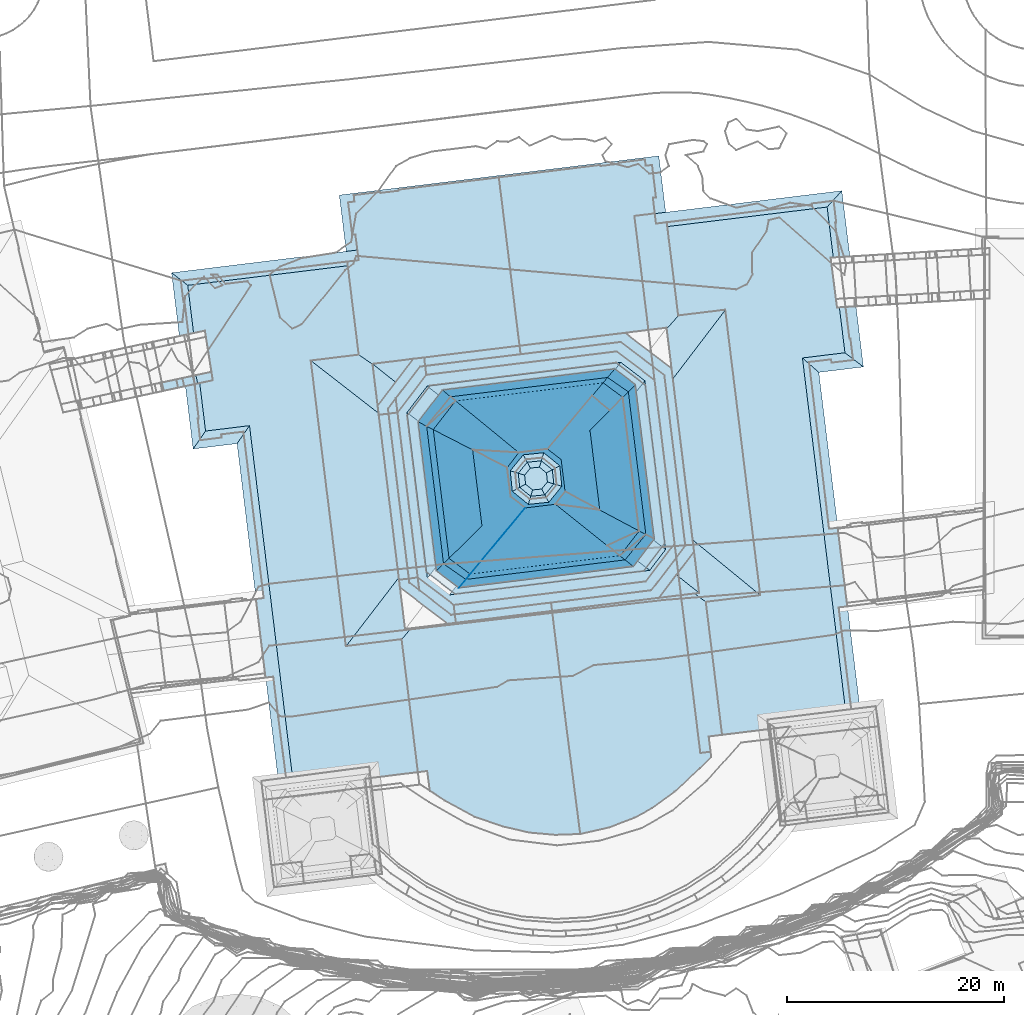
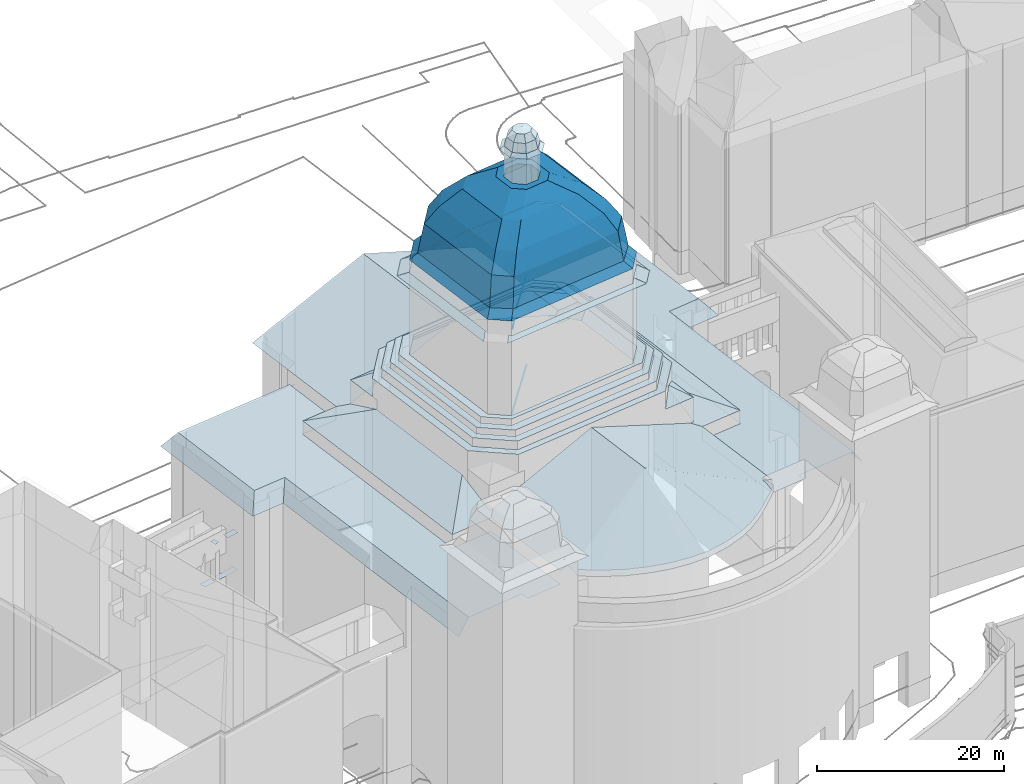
# Not in any storey, part 78 of 494: 23 roofs.
"""IFC2X3 model written with IfcOpenShell, lengths in metres."""

from ifc_helpers import new_model, si_unit, frame, origin_with_axes, place, context, subcontext, project, faceted_brep, element, save


model = new_model("IFC2X3")

# Units and contexts
model_context = context("Model", 3, precision=1e-05, world=origin_with_axes())
body_context = subcontext(model_context, "Body", "Model", "MODEL_VIEW")
ifc_project = project(units=[si_unit("AREAUNIT", "SQUARE_METRE"), si_unit("LENGTHUNIT", "METRE")], contexts=[model_context])

# Roofs
roof_1_placement = place(None, frame((211.8297320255, 101.9383160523, 526.7541), z_axis=(0.0, 0.0, 1.0), x_axis=(1.0, 0.0, 0.0)))
element("IfcRoof", 1, at=roof_1_placement, Name="Roof 4", ShapeType="NOTDEFINED", context=body_context, shape_type="Brep", body=[
    faceted_brep([(290.6510000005, 294.4814000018, 24.302), (290.5280000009, 295.2606999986, 24.302), (287.8580000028, 294.6854999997, 24.302), (288.0230000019, 293.9149999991, 24.302)], [[[0, 1, 2]], [[2, 3, 0]]]),
])
roof_2_placement = place(None, frame((211.8297320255, 101.9383160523, 526.7541), z_axis=(0.0, 0.0, 1.0), x_axis=(1.0, 0.0, 0.0)))
element("IfcRoof", 2, at=roof_2_placement, Name="Roof 8", ShapeType="NOTDEFINED", context=body_context, shape_type="Brep", body=[
    faceted_brep([(287.4560000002, 293.7930000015, 24.302), (287.2910000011, 294.5634999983, 24.302), (285.8230000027, 294.246100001, 24.302), (285.9890000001, 293.4765000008, 24.302)], [[[0, 1, 2]], [[2, 3, 0]]]),
])
roof_3_placement = place(None, frame((211.8297320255, 101.9383160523, 526.7541), z_axis=(0.0, 0.0, 1.0), x_axis=(1.0, 0.0, 0.0)))
element("IfcRoof", 3, at=roof_3_placement, Name="Roof 21", ShapeType="NOTDEFINED", context=body_context, shape_type="Brep", body=[
    faceted_brep([(287.4560000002, 293.7930000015, 29.1525), (288.0230000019, 293.9149999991, 29.1525), (287.2910000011, 294.5625, 29.1525), (287.8580000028, 294.6845999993, 29.1525)], [[[0, 1, 2]], [[1, 3, 2]]]),
])
roof_4_placement = place(None, frame((516.5377320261, 359.7107160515, 536.6602), z_axis=(0.0, 0.0, 1.0), x_axis=(1.0, 0.0, 0.0)))
element("IfcRoof", 4, at=roof_4_placement, Name="Roof 0", ShapeType="NOTDEFINED", context=body_context, shape_type="Brep", body=[
    faceted_brep([(28.6510000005, 18.7881000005, 34.3877), (30.7569999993, 17.1143000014, 33.0868), (30.2879999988, 20.9327000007, 33.0869), (27.0240000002, 16.6563000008, 33.0868)], [[[0, 1, 2]], [[1, 0, 3]]]),
])
roof_5_placement = place(None, frame((516.5377320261, 359.7107160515, 536.6602), z_axis=(0.0, 0.0, 1.0), x_axis=(1.0, 0.0, 0.0)))
element("IfcRoof", 5, at=roof_5_placement, Name="Roof 3", ShapeType="NOTDEFINED", context=body_context, shape_type="Brep", body=[
    faceted_brep([(25.068, 20.0694000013, 48.8753), (26.1810000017, 19.2100000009, 48.2674), (26.5370000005, 21.9942000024, 48.8753), (27.6500000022, 21.134800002, 48.2674)], [[[0, 1, 2]], [[2, 1, 3]]]),
])
roof_6_placement = place(None, frame((516.5377320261, 359.7107160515, 536.6602), z_axis=(0.0, 0.0, 1.0), x_axis=(1.0, 0.0, 0.0)))
element("IfcRoof", 6, at=roof_6_placement, Name="Roof 4", ShapeType="NOTDEFINED", context=body_context, shape_type="Brep", body=[
    faceted_brep([(5.631000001, 19.0303000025, 38.1684), (6.5350000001, 19.1534000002, 38.1684), (4.8489999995, 32.8896999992, 38.1686), (8.2750000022, 17.0118000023, 38.1684), (8.5899999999, 17.5850000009, 38.1684), (24.6799999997, 19.5595999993, 38.1684), (3.8579999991, 33.4747000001, 38.1686), (5.9479999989, 36.2138999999, 38.1686), (7.0850000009, 35.8203999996, 38.1686), (23.0800000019, 38.317400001, 38.1686), (25.626000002, 19.1416000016, 38.1684), (26.6130000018, 22.0928000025, 38.1684), (27.5800000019, 21.7032000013, 38.1684), (25.7950000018, 36.2442000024, 38.1685), (22.9670000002, 37.7686000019, 38.1686), (24.8660000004, 36.3203999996, 38.1685)], [[[0, 1, 2]], [[1, 0, 3]], [[3, 4, 1]], [[4, 3, 5]], [[6, 2, 7]], [[2, 6, 0]], [[7, 8, 9]], [[8, 7, 2]], [[5, 10, 11]], [[10, 5, 3]], [[11, 12, 13]], [[12, 11, 10]], [[14, 9, 8]], [[9, 14, 15]], [[15, 13, 9]], [[13, 15, 11]]]),
])
roof_7_placement = place(None, frame((516.5377320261, 359.7107160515, 536.6602), z_axis=(0.0, 0.0, 1.0), x_axis=(1.0, 0.0, 0.0)))
element("IfcRoof", 7, at=roof_7_placement, Name="Roof 5", ShapeType="NOTDEFINED", context=body_context, shape_type="Brep", body=[
    faceted_brep([(10.6290000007, 20.0401000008, 38.1684), (8.5430000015, 17.5284000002, 38.1684), (12.8370000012, 22.692400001, 38.1684), (14.7650000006, 25.009800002, 38.1684), (12.9739999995, 22.8604000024, 38.1684)], [[[0, 1, 2]], [[2, 3, 4]], [[2, 4, 0]]]),
])
roof_8_placement = place(None, frame((516.5377320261, 359.7107160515, 536.6602), z_axis=(0.0, 0.0, 1.0), x_axis=(1.0, 0.0, 0.0)))
element("IfcRoof", 8, at=roof_8_placement, Name="Roof 6", ShapeType="NOTDEFINED", context=body_context, shape_type="Brep", body=[
    faceted_brep([(9.0810000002, 18.1748000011, 48.8994), (9.5710000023, 18.7646999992, 49.2283), (9.5700000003, 18.7657000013, 49.2293), (10.0610000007, 19.3564999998, 49.5583)], [[[0, 1, 2]], [[1, 3, 2]]]),
])
roof_9_placement = place(None, frame((516.5377320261, 359.7107160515, 536.6602), z_axis=(0.0, 0.0, 1.0), x_axis=(1.0, 0.0, 0.0)))
element("IfcRoof", 9, at=roof_9_placement, Name="Roof 7", ShapeType="NOTDEFINED", context=body_context, shape_type="Brep", body=[
    faceted_brep([(4.8489999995, 32.8896999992, 48.8025), (4.8839999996, 32.9356000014, 48.8275), (3.824000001, 33.7540000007, 48.2376), (5.6970000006, 18.4893000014, 48.2374), (6.4930000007, 19.496100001, 48.8024)], [[[0, 1, 2]], [[2, 3, 4]], [[2, 4, 0]]]),
])
roof_10_placement = place(None, frame((516.5377320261, 359.7107160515, 536.6602), z_axis=(0.0, 0.0, 1.0), x_axis=(1.0, 0.0, 0.0)))
element("IfcRoof", 10, at=roof_10_placement, Name="Roof 8", ShapeType="NOTDEFINED", context=body_context, shape_type="Brep", body=[
    faceted_brep([(12.1140000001, 21.8282000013, 49.8883), (10.5540000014, 19.9502000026, 49.8883), (14.7219999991, 24.9590000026, 49.8883), (13.6781000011, 23.7080000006, 49.8883)], [[[0, 1, 2]], [[2, 3, 0]]]),
])
roof_11_placement = place(None, frame((516.5377320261, 359.7107160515, 536.6602), z_axis=(0.0, 0.0, 1.0), x_axis=(1.0, 0.0, 0.0)))
element("IfcRoof", 11, at=roof_11_placement, Name="Roof 9", ShapeType="NOTDEFINED", context=body_context, shape_type="Brep", body=[
    faceted_brep([(4.8839999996, 32.9356000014, 48.8465), (6.7360000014, 35.3632999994, 48.8465), (3.824000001, 33.7539000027, 48.2676), (5.675999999, 36.1807000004, 48.2676)], [[[0, 1, 2]], [[1, 3, 2]]]),
])
roof_12_placement = place(None, frame((516.5377320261, 359.7107160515, 536.6602), z_axis=(0.0, 0.0, 1.0), x_axis=(1.0, 0.0, 0.0)))
element("IfcRoof", 12, at=roof_12_placement, Name="Roof 10", ShapeType="NOTDEFINED", context=body_context, shape_type="Brep", body=[
    faceted_brep([(7.7219999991, 16.9444000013, 48.2374), (24.6799999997, 19.5595999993, 48.5694), (8.5899999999, 17.5850000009, 48.5694), (8.3650000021, 17.7569000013, 48.6944), (26.1810000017, 19.2100000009, 48.2374), (25.068, 20.0694000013, 48.8563)], [[[0, 1, 2]], [[0, 2, 3]], [[1, 0, 4]], [[5, 1, 4]]]),
])
roof_13_placement = place(None, frame((516.5377320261, 359.7107160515, 536.6602), z_axis=(0.0, 0.0, 1.0), x_axis=(1.0, 0.0, 0.0)))
element("IfcRoof", 13, at=roof_13_placement, Name="Roof 25", ShapeType="NOTDEFINED", context=body_context, shape_type="Brep", body=[
    faceted_brep([(0.3599999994, 1.1026000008, 27.8074), (4.8449999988, 0.5947999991, 27.8074), (3.3420000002, 12.8496000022, 27.8074), (0.4849999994, 0.0595999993, 27.8074), (-1.7960000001, 12.2188000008, 27.8074), (-6.7269999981, 0.1700000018, 27.8074), (-5.0249999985, 38.5234999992, 27.8076), (-0.6109999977, 39.0655000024, 27.8076), (-1.618999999, 47.2813000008, 27.8076), (-14.737999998, 32.0459000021, 27.8076), (-10.6899999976, 32.5410999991, 27.8076), (-16.381000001, 45.4737000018, 27.8076), (-15.2280000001, 31.3399000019, 26.9617), (-15.8859999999, 30.3916000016, 25.8256), (-11.8379999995, 30.8877000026, 25.8256), (-11.2109999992, 31.7910999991, 26.9077), (-16.9109999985, 45.8838, 27.1047), (-17.8729999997, 46.6280000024, 25.8258), (-0.675999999, 48.2422000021, 26.5557), (-0.7369999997, 48.7266000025, 25.8258), (-1.6640000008, 47.6436000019, 27.2626), (-0.6160000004, 47.7706000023, 27.2636), (-8.0549999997, -0.0047999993, 25.8256), (-9.1959999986, 9.3115999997, 25.8256), (-10.0819999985, 16.5507999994, 25.8256)], [[[0, 1, 2]], [[3, 1, 0]], [[0, 4, 5]], [[2, 4, 0]], [[6, 7, 8]], [[9, 10, 11]], [[6, 11, 10]], [[11, 6, 8]], [[10, 4, 6]], [[10, 5, 4]], [[12, 13, 14]], [[9, 12, 14]], [[15, 10, 9]], [[15, 9, 14]], [[16, 9, 11]], [[12, 16, 17]], [[16, 12, 9]], [[12, 17, 13]], [[18, 19, 17]], [[18, 16, 20]], [[20, 21, 18]], [[20, 16, 11]], [[20, 11, 8]], [[18, 17, 16]], [[22, 5, 10]], [[23, 10, 24]], [[10, 23, 22]], [[24, 15, 14]], [[15, 24, 10]]]),
])
roof_14_placement = place(None, frame((516.5377320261, 359.7107160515, 536.6602), z_axis=(0.0, 0.0, 1.0), x_axis=(1.0, 0.0, 0.0)))
element("IfcRoof", 14, at=roof_14_placement, Name="Roof 29", ShapeType="NOTDEFINED", context=body_context, shape_type="Brep", body=[
    faceted_brep([(-14.057, 36.7090000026, 19.2464), (-14.1799999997, 37.4882999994, 19.2464), (-15.6259999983, 37.1757999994, 19.2464), (-15.4589999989, 36.4072999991, 19.2464)], [[[0, 1, 2]], [[2, 3, 0]]]),
])
roof_15_placement = place(None, frame((516.5377320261, 359.7107160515, 536.6602), z_axis=(0.0, 0.0, 1.0), x_axis=(1.0, 0.0, 0.0)))
element("IfcRoof", 15, at=roof_15_placement, Name="Roof 31", ShapeType="NOTDEFINED", context=body_context, shape_type="Brep", body=[
    faceted_brep([(2.7840000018, 36.5342000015, 34.3989), (0.6610000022, 38.2217000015, 33.0871), (1.1339999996, 34.3720999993, 33.0871), (4.425999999, 38.6845999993, 33.0871)], [[[0, 1, 2]], [[1, 0, 3]]]),
])
roof_16_placement = place(None, frame((516.5377320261, 359.7107160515, 536.6602), z_axis=(0.0, 0.0, 1.0), x_axis=(1.0, 0.0, 0.0)))
element("IfcRoof", 16, at=roof_16_placement, Name="Roof 32", ShapeType="NOTDEFINED", context=body_context, shape_type="Brep", body=[
    faceted_brep([(27.8200000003, 50.884800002, 27.8076), (28.8269999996, 42.6788000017, 27.8075), (33.1590000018, 43.2109999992, 27.8075), (42.5289999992, 52.6845999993, 27.8076), (40.254999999, 38.7784000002, 27.8075), (44.1720000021, 39.2578999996, 27.8075), (44.2270000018, 6.3330000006, 27.8073), (36.3880000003, 16.9072999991, 27.8073), (32.875, 4.0362000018, 27.8073), (37.0379999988, 5.4405000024, 27.8073), (31.3709999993, 16.2910999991, 27.8073), (37.1460000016, 4.5595999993, 27.8073), (44.9279999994, 38.6788000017, 26.9276), (45.875, 37.9532000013, 25.8257), (43.887000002, 54.188500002, 25.8257), (43.0219999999, 53.2314999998, 27.0886), (40.9059999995, 38.2061000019, 26.9536), (41.7670000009, 37.4502000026, 25.8257), (43.5219999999, 23.1152999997, 25.8255), (44.4079999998, 15.8731000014, 25.8255), (45.5560000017, 6.4981000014, 25.8255), (26.6680000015, 52.0811000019, 25.8258), (26.7329999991, 51.5362000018, 26.6457), (26.7800000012, 51.1425999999, 27.2356), (27.7730000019, 51.2646999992, 27.2356)], [[[0, 1, 2]], [[0, 2, 3]], [[3, 4, 5]], [[3, 2, 4]], [[6, 4, 7]], [[2, 7, 4]], [[8, 9, 10]], [[8, 11, 9]], [[6, 7, 9]], [[9, 7, 10]], [[12, 13, 14]], [[5, 12, 15]], [[5, 15, 3]], [[15, 12, 14]], [[5, 4, 16]], [[12, 16, 17]], [[16, 12, 5]], [[12, 17, 13]], [[16, 18, 17]], [[18, 16, 4]], [[19, 6, 20]], [[6, 19, 18]], [[6, 18, 4]], [[14, 21, 22]], [[23, 24, 22]], [[24, 0, 3]], [[15, 22, 24]], [[14, 22, 15]], [[24, 3, 15]]]),
])
roof_17_placement = place(None, frame((516.5377320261, 359.7107160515, 536.6602), z_axis=(0.0, 0.0, 1.0), x_axis=(1.0, 0.0, 0.0)))
element("IfcRoof", 17, at=roof_17_placement, Name="Roof 33", ShapeType="NOTDEFINED", context=body_context, shape_type="Brep", body=[
    faceted_brep([(28.2190000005, 37.7872000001, 35.4728), (27.5560000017, 37.1543000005, 35.4728), (29.4820000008, 21.4659000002, 35.4726), (23.5199999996, 40.2344000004, 35.4728), (23.9090000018, 41.0762000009, 35.4728), (5.0210000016, 37.9629000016, 35.4728), (30.2879999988, 20.9327000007, 35.4726), (26.3460000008, 17.3575000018, 35.4726), (27.0240000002, 16.6563000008, 35.4726), (7.5659999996, 14.2666000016, 35.4726), (4.425999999, 38.6845999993, 35.4728), (1.1339999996, 34.3720999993, 35.4728), (2.0830000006, 34.1143000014, 35.4728), (3.1920000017, 17.6044999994, 35.4726), (7.9160000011, 15.0938000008, 35.4726), (4.0560000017, 18.0401000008, 35.4726)], [[[0, 1, 2]], [[1, 0, 3]], [[4, 3, 0]], [[3, 4, 5]], [[6, 2, 7]], [[2, 6, 0]], [[8, 7, 9]], [[7, 8, 6]], [[5, 10, 11]], [[10, 5, 4]], [[12, 11, 13]], [[11, 12, 5]], [[14, 9, 7]], [[9, 14, 15]], [[15, 13, 9]], [[13, 15, 12]]]),
])
roof_18_placement = place(None, frame((516.5377320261, 359.7107160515, 536.6602), z_axis=(0.0, 0.0, 1.0), x_axis=(1.0, 0.0, 0.0)))
element("IfcRoof", 18, at=roof_18_placement, Name="Roof 34", ShapeType="NOTDEFINED", context=body_context, shape_type="Brep", body=[
    faceted_brep([(26.6130000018, 22.0928000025, 50.4772), (23.9110000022, 20.1739000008, 51.3721), (24.6799999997, 19.5595999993, 50.4772), (25.8280000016, 22.5108000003, 51.3721), (20.1339999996, 23.1933999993, 59.5223), (23.7760000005, 23.6006000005, 57.3355), (21.5820000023, 24.7675999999, 59.5223), (22.2589999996, 21.4942000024, 57.3355), (17.4979999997, 25.2998000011, 61.0132), (14.7230000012, 24.9600000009, 61.0132), (12.4719999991, 22.2520000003, 59.5223), (18.387000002, 26.4649000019, 61.0132), (23.7060000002, 35.1504000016, 55.1489), (20.876000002, 35.2813000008, 57.3357), (22.506000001, 33.9414000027, 57.3357), (19.0399999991, 33.0956999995, 59.5225), (20.682, 32.1016000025, 59.5225), (18.0240000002, 29.4229000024, 61.0132), (16.6539999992, 25.9160999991, 61.0132), (17.6170000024, 27.0976999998, 61.0132), (17.4609999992, 28.6143000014, 61.0132), (15.1380000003, 25.7608000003, 61.0132), (13.3859999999, 25.9794999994, 61.0132), (13.9560000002, 26.7226999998, 61.0132), (13.0560000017, 28.6709000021, 61.0132), (16.2789999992, 29.5771999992, 61.0132), (16.762000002, 30.3858000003, 61.0132), (14.7630000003, 29.4209000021, 61.0132), (13.800999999, 28.2393000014, 61.0132), (14.1170000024, 30.0606000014, 61.0132), (9.8680000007, 30.3095999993, 59.5224), (11.5360000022, 32.1748000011, 59.5225), (7.6790000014, 31.4345999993, 57.3357), (9.4550000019, 33.8790000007, 57.3357), (8.8980000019, 21.5078999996, 57.3355), (10.6570000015, 20.0703999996, 57.3355), (10.7250000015, 23.3282000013, 59.5223), (6.5350000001, 19.1534000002, 50.4772), (9.2459999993, 18.375, 51.3721), (7.1889999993, 19.8047000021, 51.3721), (8.5899999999, 17.5850000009, 50.4772), (7.8379999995, 35.2032000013, 51.3723), (4.8489999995, 32.8896999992, 50.4774), (5.6319999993, 32.4873999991, 51.3723), (7.0850000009, 35.8203999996, 50.4774), (24.8660000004, 36.3203999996, 50.4774), (22.3029999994, 36.9785999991, 51.3723), (24.2140000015, 35.6612000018, 51.3723), (22.9670000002, 37.7686000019, 50.4774), (9.6510000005, 18.8614000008, 55.1488), (23.436999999, 20.5527999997, 55.1487), (25.2170000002, 22.8350000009, 55.1487), (21.8940000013, 36.4922000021, 55.1489), (6.2410000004, 32.1739000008, 55.1489), (8.3020000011, 34.8243000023, 55.1489), (7.6970000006, 20.3106000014, 55.1488), (9.2459999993, 18.375, 51.1721), (9.6510000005, 18.8614000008, 54.9488), (23.9110000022, 20.1739000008, 51.1721), (23.436999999, 20.5527999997, 54.9488), (25.8280000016, 22.5108000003, 51.1721), (25.2170000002, 22.8350000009, 54.9488), (23.7060000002, 35.1504000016, 54.9489), (24.2140000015, 35.6612000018, 51.1723), (5.6319999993, 32.4873000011, 51.1723), (6.2410000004, 32.1739000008, 54.949), (7.6970000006, 20.3106000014, 54.9488), (7.1889999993, 19.8047000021, 51.1721), (22.3029999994, 36.9785999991, 51.1723), (21.8940000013, 36.4922000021, 54.9489), (7.8379999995, 35.2032000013, 51.1723), (8.3020000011, 34.8243000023, 54.949)], [[[0, 1, 2]], [[1, 0, 3]], [[4, 5, 6]], [[5, 4, 7]], [[6, 8, 4]], [[9, 10, 4]], [[4, 8, 9]], [[8, 6, 11]], [[12, 13, 14]], [[14, 15, 16]], [[15, 14, 13]], [[11, 6, 17]], [[16, 17, 6]], [[8, 18, 9]], [[18, 8, 19]], [[11, 19, 8]], [[19, 11, 20]], [[9, 21, 22]], [[21, 9, 18]], [[22, 23, 24]], [[23, 22, 21]], [[20, 17, 25]], [[17, 20, 11]], [[25, 26, 27]], [[26, 25, 17]], [[28, 24, 23]], [[24, 28, 29]], [[27, 29, 28]], [[29, 27, 26]], [[29, 30, 24]], [[16, 26, 17]], [[26, 16, 15]], [[31, 32, 30]], [[32, 31, 33]], [[30, 29, 31]], [[26, 15, 31]], [[31, 29, 26]], [[10, 34, 35]], [[34, 10, 36]], [[9, 36, 10]], [[36, 9, 22]], [[24, 30, 22]], [[36, 22, 30]], [[37, 38, 39]], [[38, 37, 40]], [[41, 42, 43]], [[42, 41, 44]], [[45, 46, 47]], [[46, 45, 48]], [[38, 40, 2]], [[2, 1, 38]], [[35, 49, 50]], [[50, 7, 35]], [[10, 35, 7]], [[7, 4, 10]], [[51, 7, 50]], [[3, 0, 47]], [[45, 47, 0]], [[7, 51, 5]], [[6, 5, 16]], [[14, 16, 5]], [[13, 12, 52]], [[33, 53, 32]], [[53, 33, 54]], [[13, 52, 54]], [[54, 33, 13]], [[15, 13, 33]], [[33, 31, 15]], [[55, 35, 34]], [[32, 53, 34]], [[55, 34, 53]], [[30, 32, 36]], [[34, 36, 32]], [[43, 42, 39]], [[37, 39, 42]], [[35, 55, 49]], [[46, 48, 44]], [[44, 41, 46]], [[5, 51, 14]], [[12, 14, 51]], [[49, 38, 1]], [[1, 50, 49]], [[56, 57, 58]], [[59, 58, 57]], [[3, 50, 1]], [[59, 60, 58]], [[50, 3, 51]], [[60, 59, 61]], [[51, 3, 12]], [[47, 12, 3]], [[60, 61, 62]], [[62, 63, 60]], [[53, 43, 55]], [[39, 55, 43]], [[64, 65, 66]], [[66, 67, 64]], [[39, 49, 55]], [[57, 67, 66]], [[49, 39, 38]], [[67, 57, 56]], [[52, 46, 41]], [[41, 54, 52]], [[68, 69, 70]], [[71, 70, 69]], [[43, 54, 41]], [[71, 64, 70]], [[54, 43, 53]], [[64, 71, 65]], [[52, 47, 46]], [[63, 69, 68]], [[47, 52, 12]], [[69, 63, 62]]]),
])
roof_19_placement = place(None, frame((516.5377320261, 359.7107160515, 536.6602), z_axis=(0.0, 0.0, 1.0), x_axis=(1.0, 0.0, 0.0)))
element("IfcRoof", 19, at=roof_19_placement, Name="Roof 35", ShapeType="NOTDEFINED", context=body_context, shape_type="Brep", body=[
    faceted_brep([(27.5560000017, 37.1543000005, 36.5787), (26.6550000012, 36.692400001, 36.5787), (29.4820000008, 21.4659000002, 36.5785), (23.5199999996, 40.2344000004, 36.5787), (23.1559999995, 39.3623000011, 36.5787), (5.6180000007, 37.2090000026, 36.5787), (28.4979999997, 21.6777999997, 36.5785), (25.8229999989, 18.1729000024, 36.5785), (26.3460000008, 17.3575000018, 36.5785), (7.9160000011, 15.0938000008, 36.5785), (5.0210000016, 37.9629000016, 36.5787), (2.0830000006, 34.1143000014, 36.5787), (2.9640000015, 33.7325000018, 36.5787), (4.0560000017, 18.0401000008, 36.5785), (8.1460000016, 16.0030000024, 36.5785), (4.8289999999, 18.5351999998, 36.5785)], [[[0, 1, 2]], [[1, 0, 3]], [[3, 4, 1]], [[4, 3, 5]], [[2, 6, 7]], [[6, 2, 1]], [[8, 7, 9]], [[7, 8, 2]], [[5, 10, 11]], [[10, 5, 3]], [[12, 11, 13]], [[11, 12, 5]], [[14, 9, 7]], [[9, 14, 13]], [[15, 13, 14]], [[13, 15, 12]]]),
])
roof_20_placement = place(None, frame((516.5377320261, 359.7107160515, 536.6602), z_axis=(0.0, 0.0, 1.0), x_axis=(1.0, 0.0, 0.0)))
element("IfcRoof", 20, at=roof_20_placement, Name="Roof 36", ShapeType="NOTDEFINED", context=body_context, shape_type="Brep", body=[
    faceted_brep([(4.8289999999, 18.5351999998, 37.3735), (5.631000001, 19.0303000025, 37.3735), (2.9640000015, 33.7325000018, 37.3736), (8.2750000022, 17.0118000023, 37.3735), (8.1460000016, 16.0030000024, 37.3735), (25.8229999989, 18.1729000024, 37.3734), (3.8579999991, 33.4747000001, 37.3736), (5.9479999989, 36.2138999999, 37.3736), (5.6180000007, 37.2090000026, 37.3736), (23.1559999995, 39.3623000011, 37.3736), (25.626000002, 19.1416000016, 37.3734), (28.4979999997, 21.6777999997, 37.3734), (27.5800000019, 21.7032000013, 37.3734), (25.7950000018, 36.2442000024, 37.3736), (23.0800000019, 38.317400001, 37.3736), (26.6550000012, 36.692400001, 37.3736)], [[[0, 1, 2]], [[1, 0, 3]], [[4, 3, 0]], [[3, 4, 5]], [[2, 6, 7]], [[6, 2, 1]], [[8, 7, 9]], [[7, 8, 2]], [[10, 5, 11]], [[5, 10, 3]], [[12, 11, 13]], [[11, 12, 10]], [[14, 9, 7]], [[9, 14, 15]], [[13, 15, 14]], [[15, 13, 11]]]),
])
roof_21_placement = place(None, frame((516.5377320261, 359.7107160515, 536.6602), z_axis=(0.0, 0.0, 1.0), x_axis=(1.0, 0.0, 0.0)))
element("IfcRoof", 21, at=roof_21_placement, Name="Roof 37", ShapeType="NOTDEFINED", context=body_context, shape_type="Brep", body=[
    faceted_brep([(16.2789999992, 29.5771999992, 65.0228), (16.4200000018, 30.0479000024, 64.6259), (14.5300000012, 29.8535999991, 64.6259), (14.7630000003, 29.4209000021, 65.0228), (13.3300000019, 28.379900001, 64.6259), (13.800999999, 28.2393000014, 65.0228), (13.5230000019, 26.4902999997, 64.6259), (13.9560000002, 26.7226999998, 65.0228), (14.9970000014, 25.2901000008, 64.6259), (15.1380000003, 25.7608000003, 65.0228), (16.8880000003, 25.4834000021, 64.6258), (16.6539999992, 25.9160999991, 65.0228), (17.6170000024, 27.0976999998, 65.0228), (18.0879999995, 26.9571000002, 64.6258), (17.8940000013, 28.8476999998, 64.6259), (17.4609999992, 28.6143000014, 65.0228), (15.7089999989, 27.6689999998, 67.1986), (16.6730000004, 28.188500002, 66.9506), (16.0230000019, 28.7178000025, 66.9506), (16.7580000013, 27.3544999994, 66.9506), (16.2290000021, 26.7041000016, 66.9506), (15.3949999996, 26.6192000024, 66.9506), (14.6590000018, 27.9834000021, 66.9506), (15.188000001, 28.6328999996, 66.9506), (14.743999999, 27.1484999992, 66.9506), (17.2109999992, 28.4785999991, 66.1557), (16.1979999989, 29.3038000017, 66.1557), (17.3440000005, 27.1788000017, 66.1557), (15.2190000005, 26.0331999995, 66.1557), (16.5190000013, 26.1660999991, 66.1557), (14.8980000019, 29.1709000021, 66.1557), (14.0729999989, 28.1581999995, 66.1557), (14.2060000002, 26.8584000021, 66.1557)], [[[0, 1, 2]], [[2, 3, 0]], [[3, 2, 4]], [[4, 5, 3]], [[5, 4, 6]], [[6, 7, 5]], [[7, 6, 8]], [[8, 9, 7]], [[9, 8, 10]], [[10, 11, 9]], [[11, 10, 12]], [[13, 12, 10]], [[12, 13, 14]], [[14, 15, 12]], [[15, 14, 0]], [[1, 0, 14]], [[16, 17, 18]], [[17, 16, 19]], [[16, 20, 19]], [[20, 16, 21]], [[22, 16, 23]], [[23, 16, 18]], [[16, 24, 21]], [[24, 16, 22]], [[17, 25, 18]], [[26, 18, 25]], [[19, 27, 25]], [[25, 17, 19]], [[21, 28, 29]], [[29, 20, 21]], [[20, 29, 27]], [[27, 19, 20]], [[23, 30, 31]], [[31, 22, 23]], [[18, 26, 23]], [[30, 23, 26]], [[24, 32, 28]], [[28, 21, 24]], [[22, 31, 24]], [[32, 24, 31]], [[32, 7, 28]], [[9, 28, 7]], [[28, 9, 29]], [[11, 29, 9]], [[30, 3, 31]], [[5, 31, 3]], [[31, 5, 32]], [[7, 32, 5]], [[25, 15, 26]], [[0, 26, 15]], [[26, 0, 30]], [[3, 30, 0]], [[29, 11, 27]], [[12, 27, 11]], [[27, 12, 25]], [[15, 25, 12]]]),
])
roof_22_placement = place(None, frame((516.5377320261, 359.7107160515, 536.6602), z_axis=(0.0, 0.0, 1.0), x_axis=(1.0, 0.0, 0.0)))
element("IfcRoof", 22, at=roof_22_placement, Name="Roof 38", ShapeType="NOTDEFINED", context=body_context, shape_type="Brep", body=[
    faceted_brep([(22.9670000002, 37.7686000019, 48.5696), (5.675999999, 36.1807000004, 48.2376), (7.0850000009, 35.8203999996, 48.5696), (23.5190000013, 38.371100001, 48.2376), (23.0140000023, 37.7334000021, 48.5956), (6.7360000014, 35.3632999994, 48.8275), (24.8660000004, 36.3203999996, 48.6195), (25.7420000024, 36.6748999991, 48.2676), (23.5190000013, 38.371100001, 48.2676), (24.9460000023, 35.6680000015, 48.8225), (23.0140000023, 37.7334000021, 48.6196), (26.6130000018, 22.0928000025, 48.8024), (26.5370000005, 21.9942000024, 48.8563), (27.6500000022, 21.134800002, 48.2374), (25.7420000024, 36.6748999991, 48.2376), (24.9460000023, 35.6680000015, 48.8025)], [[[0, 1, 2]], [[1, 0, 3]], [[0, 4, 3]], [[2, 1, 5]], [[6, 7, 8]], [[7, 6, 9]], [[6, 8, 10]], [[11, 12, 13]], [[11, 14, 15]], [[14, 11, 13]]]),
])
roof_23_placement = place(None, frame((516.5377320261, 359.7107160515, 536.6602), z_axis=(0.0, 0.0, 1.0), x_axis=(1.0, 0.0, 0.0)))
element("IfcRoof", 23, at=roof_23_placement, Name="Roof 40", ShapeType="NOTDEFINED", context=body_context, shape_type="Brep", body=[
    faceted_brep([(26.4290000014, -2.7039999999, 29.5462), (18.3599999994, 6.0967000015, 34.9137), (24.8040000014, -3.5995000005, 29.5462), (31.8709999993, 2.0069000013, 29.5462), (31.7030000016, 3.3808999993, 30.0181), (30.8469999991, 0.9882999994, 29.5462), (28.4860000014, -1.2010999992, 29.5462), (22.443, -4.4969999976, 29.5462), (19.8020000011, -5.1034999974, 29.5462), (27.7630000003, 41.4785999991, 29.9803), (28.3289999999, 36.8720999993, 31.8811), (28.8269999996, 42.6788000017, 29.5464), (33.1590000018, 43.2109999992, 29.5464), (27.7730000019, 51.2646999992, 29.5464), (27.0199999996, 57.4013999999, 29.5464), (12.2820000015, 55.5919000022, 34.9139), (14.2109999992, 39.8858000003, 34.9139), (27.7600000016, 41.5030000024, 29.9803), (27.7569999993, 41.5489000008, 29.9803), (27.7580000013, 41.5215000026, 29.9803), (30.1550000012, 22.0108000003, 31.881), (36.3880000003, 16.9072999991, 29.5462), (31.3709999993, 16.2910999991, 29.5462), (30.7569999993, 17.1143000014, 29.9042), (30.3260000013, 17.0606000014, 29.9042), (17.2109999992, 15.4512000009, 34.9137), (32.875, 4.0362000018, 29.5462), (31.6409999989, 3.8838, 30.0181), (-0.6109999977, 39.0655000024, 29.5464), (-5.0249999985, 38.5234999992, 29.5464), (0.6649999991, 38.1865999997, 29.9664), (1.2199999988, 33.6719000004, 31.8292), (0.6610000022, 38.2217000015, 29.9664), (4.5179999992, 38.6963, 31.3752), (-1.6640000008, 47.6436000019, 29.5464), (-2.4179999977, 53.7872000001, 29.5464), (1.2380000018, 33.5196000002, 31.8292), (-1.7960000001, 12.2188000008, 29.5462), (3.0749999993, 18.5577000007, 31.829), (5.7030000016, 0.7003000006, 29.8752), (5.8080000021, -0.0810000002, 29.8792), (4.8449999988, 0.5947999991, 29.5462), (3.3420000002, 12.8497000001, 29.5462), (8.3480000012, 14.3623999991, 31.51), (7.5659999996, 14.2666999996, 31.21), (4.1629999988, 13.8487000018, 29.9032), (3.6610000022, 13.7872000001, 29.9032), (12.6689999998, -4.4178999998, 29.5462), (15.1059999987, -4.9715999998, 29.5462), (10.0540000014, -3.5214000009, 29.5462), (7.313000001, -2.0174999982, 29.5462), (5.9479999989, -1.123999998, 29.5462), (17.4670000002, -5.182599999, 29.5462)], [[[0, 1, 2]], [[3, 4, 1]], [[1, 5, 3]], [[5, 1, 6]], [[2, 1, 7]], [[7, 1, 8]], [[9, 10, 11]], [[12, 11, 10]], [[13, 14, 15]], [[16, 11, 13]], [[13, 15, 16]], [[9, 11, 17]], [[18, 19, 17]], [[11, 18, 17]], [[16, 18, 11]], [[20, 21, 12]], [[12, 10, 20]], [[22, 21, 23]], [[20, 23, 21]], [[23, 24, 22]], [[25, 1, 26]], [[27, 1, 4]], [[25, 22, 24]], [[26, 22, 25]], [[26, 1, 27]], [[6, 1, 0]], [[28, 29, 30]], [[30, 29, 31]], [[32, 33, 28]], [[30, 32, 28]], [[33, 16, 15]], [[34, 28, 33]], [[34, 15, 35]], [[34, 33, 15]], [[31, 29, 36]], [[36, 37, 38]], [[37, 36, 29]], [[39, 40, 1]], [[41, 39, 42]], [[43, 1, 25]], [[44, 39, 43]], [[42, 44, 45]], [[42, 39, 44]], [[43, 39, 1]], [[46, 37, 42]], [[37, 46, 38]], [[46, 42, 45]], [[1, 47, 48]], [[1, 49, 47]], [[50, 1, 51]], [[40, 51, 1]], [[1, 50, 49]], [[1, 52, 8]], [[1, 48, 52]]]),
])

save(model, "model.ifc")
